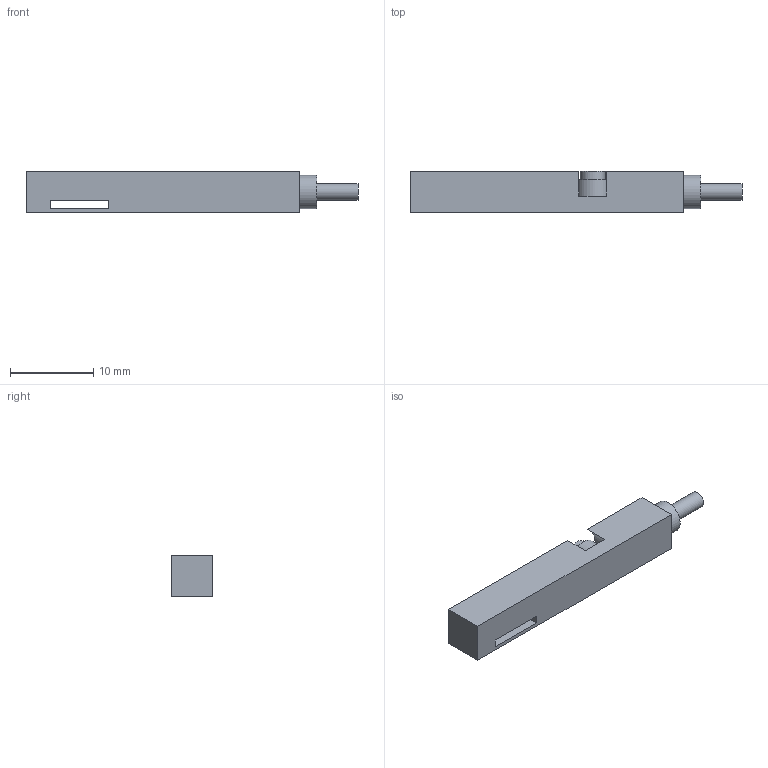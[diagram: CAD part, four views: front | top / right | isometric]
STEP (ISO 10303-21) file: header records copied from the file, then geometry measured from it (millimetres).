
FILE_DESCRIPTION( ( 'STEP AP214' ), '1' );
FILE_NAME( 'C:/Users/emc02044/Desktop/感应开关/HX-65/HX-65-R-5M.stp', '2026-08-20T05:46:15', ( 'License CC BY-ND 4.0' ), ( 'CADENAS' ), ' ', 'PARTsolutions', ' ' );
FILE_SCHEMA( ( 'AUTOMOTIVE_DESIGN { 1 0 10303 214 1 1 1 1 }' ) );
Length unit declared in the file: millimetre
Products named in the file (1): _HX-65-R-5M
Bounding box: 40 x 5 x 5 mm (x, y, z)
Volume: 785 mm3; surface area: 882.7 mm2
Topology: 1 solids, 1 shells, 22 faces, 49 edges, 33 vertices
Faces by surface type: plane 16, cylinder 6
Full cylindrical faces by diameter (mm): 2 x1, 3 x1, 4 x2
Entity records: 780 total; most frequent: DIRECTION 102, CARTESIAN_POINT 99, ORIENTED_EDGE 88, EDGE_CURVE 44, AXIS2_PLACEMENT_3D 35, EDGE_LOOP 32, VERTEX_POINT 32, LINE 32
